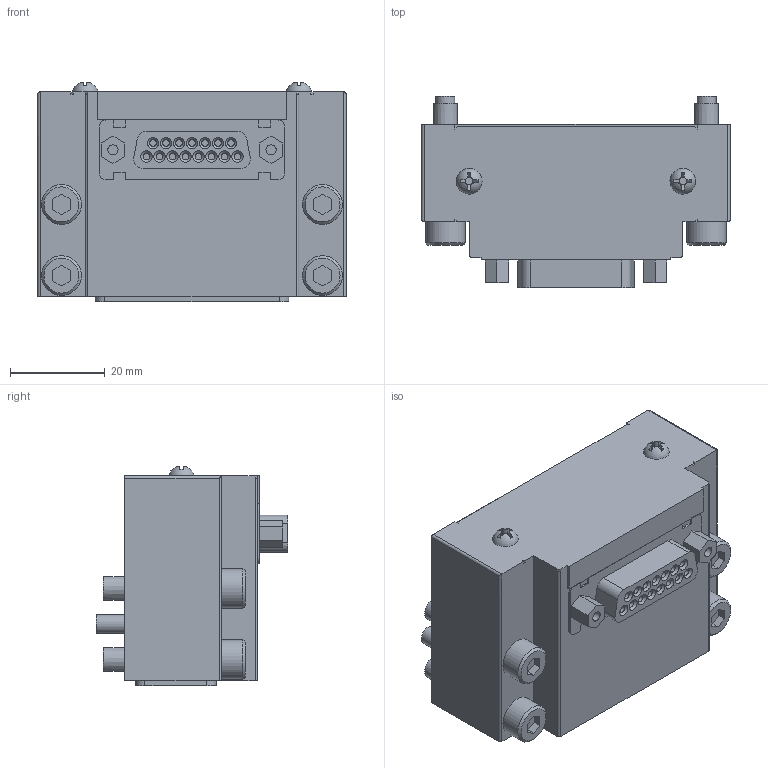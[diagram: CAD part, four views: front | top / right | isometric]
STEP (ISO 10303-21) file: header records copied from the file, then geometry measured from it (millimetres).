
FILE_DESCRIPTION(('STEP AP214'),'1');
FILE_NAME('KHB-45_300RS-D515C_ver1.stp','2026-04-27T05:44:34',(' '),(' '),'Spatial InterOp 3D',' ',' ');
FILE_SCHEMA(('AUTOMOTIVE_DESIGN { 1 0 10303 214 1 1 1 1 }'));
Length unit declared in the file: millimetre
Products named in the file (18): KHB-45~300RS-D515C_ver1; パーツ1
Assembly tree (17 placements, depth 2):
  KHB-45~300RS-D515C_ver1
    パーツ1
    パーツ1
    パーツ1
    パーツ1
    パーツ1
    パーツ1
    パーツ1
    パーツ1
    パーツ1
    パーツ1
    パーツ1
    パーツ1
    パーツ1
    パーツ1
    パーツ1
    パーツ1
    パーツ1
Bounding box: 65 x 40.44 x 46.23 mm (x, y, z)
Volume: 72637.3 mm3; surface area: 21614.4 mm2
Topology: 17 solids, 22 shells, 420 faces, 931 edges, 614 vertices
Faces by surface type: plane 265, cylinder 113, cone 40, sphere 2
Full cylindrical faces by diameter (mm): 1.25 x15, 1.4 x15, 2.15 x2, 2.5 x17, 3 x15, 3.5 x2, 4 x3, 5 x4, 5.5 x4, 8.385 x4
Entity records: 14333 total; most frequent: DIRECTION 1888, CARTESIAN_POINT 1857, ORIENTED_EDGE 1502, EDGE_CURVE 751, AXIS2_PLACEMENT_3D 707, EDGE_LOOP 606, VERTEX_POINT 572, FACE_OUTER_BOUND 503
